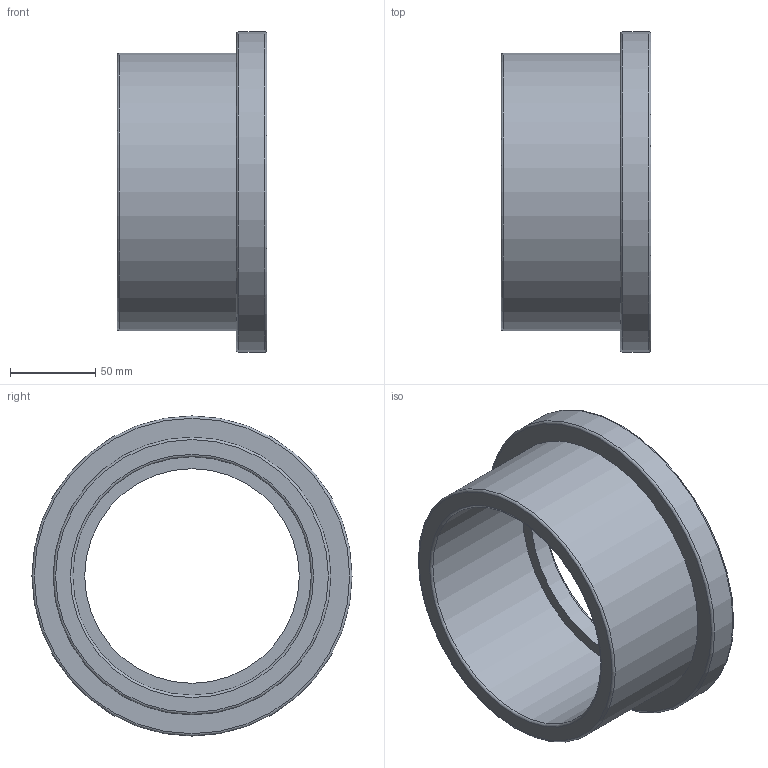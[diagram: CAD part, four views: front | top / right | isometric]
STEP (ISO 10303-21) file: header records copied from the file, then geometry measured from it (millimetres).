
FILE_DESCRIPTION(/* description */ ('PLASSON FLANGE AD.+O-RING-CE 140'),/* implementation_level */ '2;1');
FILE_NAME(/* name */ 'C:\Dropbox\KIMPROJECTS-Inventor\99-16-3568-Processing\PVC Catalog 2017\055000\055000140.ipt.stp',/* time_stamp */ '2017-12-07T16:04:45+02:00',/* author */ ('KIM'),/* organization */ (''),/* preprocessor_version */ 'ST-DEVELOPER v15.6',/* originating_system */ 'Autodesk Inventor 2015',/* authorisation */ '');
FILE_SCHEMA (('AUTOMOTIVE_DESIGN { 1 0 10303 214 3 1 1 }'));
Length unit declared in the file: millimetre
Products named in the file (1): 055000140
Bounding box: 88 x 188 x 188 mm (x, y, z)
Volume: 614981.3 mm3; surface area: 117854.5 mm2
Topology: 1 solids, 1 shells, 21 faces, 36 edges, 21 vertices
Faces by surface type: torus 9, plane 6, cylinder 6
Full cylindrical faces by diameter (mm): 126 x1, 140 x1, 147.7 x1, 163 x1, 166.3 x1, 188 x1
Entity records: 452 total; most frequent: DIRECTION 86, CARTESIAN_POINT 64, AXIS2_PLACEMENT_3D 43, EDGE_LOOP 42, ORIENTED_EDGE 42, FACE_BOUND 21, FACE_OUTER_BOUND 21, CIRCLE 21
